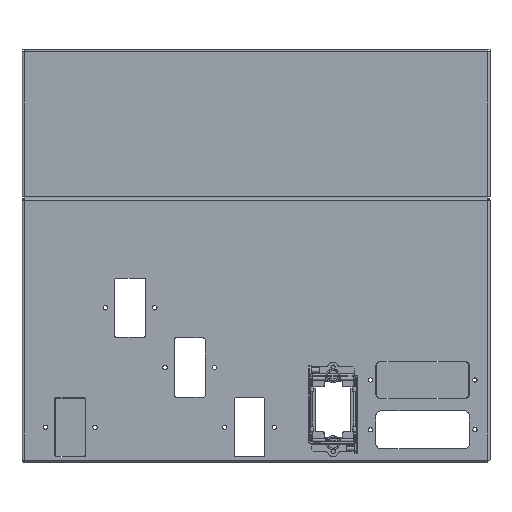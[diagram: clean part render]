
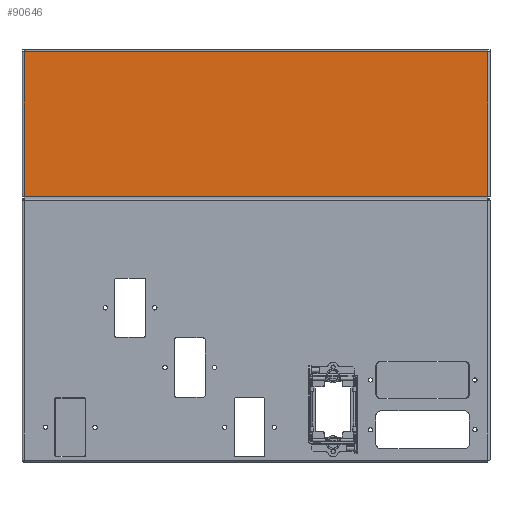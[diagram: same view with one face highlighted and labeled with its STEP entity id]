
A CAD part, top view. The second image highlights one B-rep face of the part: STEP entity #90646.
In plain terms, the highlighted planar face has unit normal (0, 0, 1).
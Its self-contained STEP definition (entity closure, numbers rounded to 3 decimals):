
#89981=CARTESIAN_POINT(' ',(-232.9,72.5,0.));
#89986=DIRECTION(' ',(0.,-1.,0.));
#89991=VECTOR(' ',#89986,1.);
#89996=LINE('',#89981,#89991);
#90001=CARTESIAN_POINT(' ',(-232.9,72.5,0.));
#90002=VERTEX_POINT(' ',#90001);
#90006=CARTESIAN_POINT(' ',(-232.9,-72.5,0.));
#90007=VERTEX_POINT(' ',#90006);
#90011=EDGE_CURVE(' ',#90002,#90007,#89996,.T.);
#90506=DIRECTION(' ',(0.,-0.,1.));
#90511=CARTESIAN_POINT(' ',(-232.9,-72.5,0.));
#90516=DIRECTION(' ',(1.,0.,-0.));
#90521=AXIS2_PLACEMENT_3D(' ',#90511,#90506,#90516);
#90526=PLANE('NONE',#90521);
#90531=ORIENTED_EDGE(' ',*,*,#90011,.T.);
#90536=CARTESIAN_POINT(' ',(-232.9,-72.5,0.));
#90541=DIRECTION(' ',(1.,0.,0.));
#90546=VECTOR(' ',#90541,1.);
#90551=LINE('',#90536,#90546);
#90556=CARTESIAN_POINT(' ',(232.9,-72.5,0.));
#90557=VERTEX_POINT(' ',#90556);
#90561=EDGE_CURVE(' ',#90007,#90557,#90551,.T.);
#90566=ORIENTED_EDGE(' ',*,*,#90561,.T.);
#90571=CARTESIAN_POINT(' ',(232.9,-72.5,0.));
#90576=DIRECTION(' ',(0.,1.,0.));
#90581=VECTOR(' ',#90576,1.);
#90586=LINE('',#90571,#90581);
#90591=CARTESIAN_POINT(' ',(232.9,72.5,0.));
#90592=VERTEX_POINT(' ',#90591);
#90596=EDGE_CURVE(' ',#90557,#90592,#90586,.T.);
#90601=ORIENTED_EDGE(' ',*,*,#90596,.T.);
#90606=CARTESIAN_POINT(' ',(232.9,72.5,0.));
#90611=DIRECTION(' ',(-1.,0.,0.));
#90616=VECTOR(' ',#90611,1.);
#90621=LINE('',#90606,#90616);
#90626=EDGE_CURVE(' ',#90592,#90002,#90621,.T.);
#90631=ORIENTED_EDGE(' ',*,*,#90626,.T.);
#90636=EDGE_LOOP(' ',(#90531,#90566,#90601,#90631));
#90641=FACE_OUTER_BOUND(' ',#90636,.T.);
#90646=ADVANCED_FACE('NONE',(#90641),#90526,.T.);
